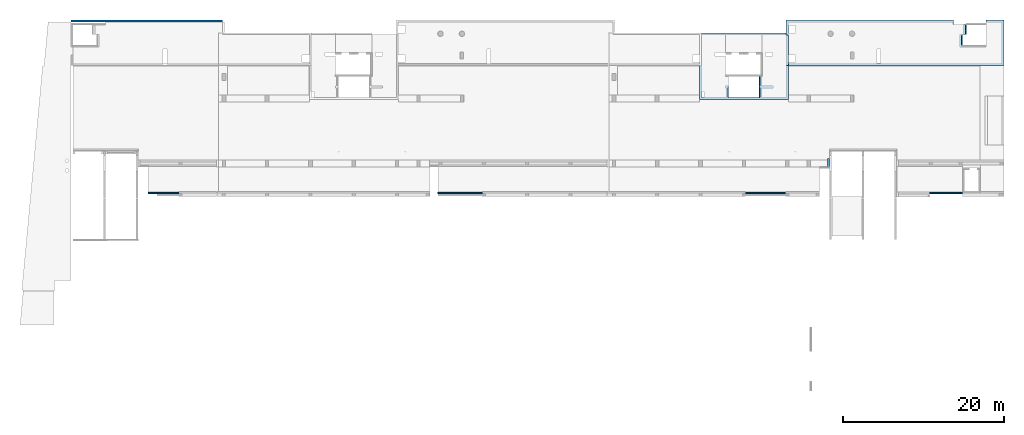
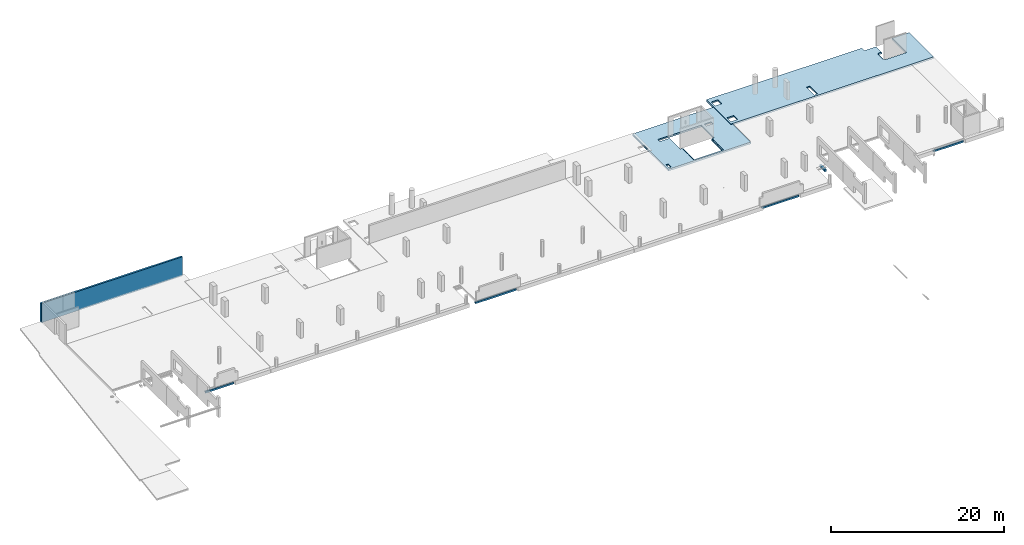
# One storey, part 7 of 8: 6 walls, 2 slabs.
"""IFC2X3 building model written with IfcOpenShell, lengths in millimetres."""

from ifc_helpers import new_model, entity, si_unit, converted_unit, derived_unit, direction, frame, origin, place, context, subcontext, project, spatial, faceted_brep, material, layer, layer_set, type_object, element, save


model = new_model("IFC2X3")

# Units and contexts
model_context = context("Model", 3, precision=0.01, world=origin(), true_north=direction((6.12303176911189e-17, 1.0)))
body_context = subcontext(model_context, "Body", "Model", "MODEL_VIEW")
ifc_project = project(units=[si_unit("LENGTHUNIT", "METRE", prefix="MILLI"), si_unit("AREAUNIT", "SQUARE_METRE"), si_unit("VOLUMEUNIT", "CUBIC_METRE"), converted_unit("PLANEANGLEUNIT", "DEGREE", entity("IfcRatioMeasure", 0.0174532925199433), si_unit("PLANEANGLEUNIT", "RADIAN"), dimensions=[0, 0, 0, 0, 0, 0, 0]), si_unit("MASSUNIT", "GRAM", prefix="KILO"), derived_unit("MASSDENSITYUNIT", [(si_unit("MASSUNIT", "GRAM", prefix="KILO"), 1), (si_unit("LENGTHUNIT", "METRE"), -3)]), si_unit("TIMEUNIT", "SECOND"), si_unit("FREQUENCYUNIT", "HERTZ"), si_unit("THERMODYNAMICTEMPERATUREUNIT", "DEGREE_CELSIUS"), derived_unit("THERMALTRANSMITTANCEUNIT", [(si_unit("MASSUNIT", "GRAM", prefix="KILO"), 1), (si_unit("THERMODYNAMICTEMPERATUREUNIT", "KELVIN"), -1), (si_unit("TIMEUNIT", "SECOND"), -3)]), derived_unit("VOLUMETRICFLOWRATEUNIT", [(si_unit("LENGTHUNIT", "METRE"), 3), (si_unit("TIMEUNIT", "SECOND"), -1)]), si_unit("ELECTRICCURRENTUNIT", "AMPERE"), si_unit("ELECTRICVOLTAGEUNIT", "VOLT"), si_unit("POWERUNIT", "WATT"), si_unit("FORCEUNIT", "NEWTON", prefix="KILO"), si_unit("ILLUMINANCEUNIT", "LUX"), si_unit("LUMINOUSFLUXUNIT", "LUMEN"), si_unit("LUMINOUSINTENSITYUNIT", "CANDELA"), derived_unit("USERDEFINED", [(si_unit("MASSUNIT", "GRAM", prefix="KILO"), -1), (si_unit("LENGTHUNIT", "METRE"), -2), (si_unit("TIMEUNIT", "SECOND"), 3), (si_unit("LUMINOUSFLUXUNIT", "LUMEN"), 1)]), derived_unit("LINEARVELOCITYUNIT", [(si_unit("LENGTHUNIT", "METRE"), 1), (si_unit("TIMEUNIT", "SECOND"), -1)]), si_unit("PRESSUREUNIT", "PASCAL"), derived_unit("USERDEFINED", [(si_unit("LENGTHUNIT", "METRE"), -2), (si_unit("MASSUNIT", "GRAM", prefix="KILO"), 1), (si_unit("TIMEUNIT", "SECOND"), -2)])], contexts=[model_context])

# Site, building, storey
site_placement = place(None, origin())
site = spatial("IfcSite", under=ifc_project, at=site_placement, Name="Default", CompositionType="ELEMENT")
building_placement = place(site_placement, origin())
building = spatial("IfcBuilding", under=site, at=building_placement, Name="niet gebruiken", CompositionType="ELEMENT")
storey_placement = place(building_placement, frame((0.0, 0.0, 3810.0)))
storey = spatial("IfcBuildingStorey", under=building, at=storey_placement, Name="01a eerste tussenverdieping", CompositionType="ELEMENT", Elevation=3810.0)

# Slabs
slab_1_placement = place(storey_placement, origin())
element("IfcSlab", 1, at=slab_1_placement, inside=storey, Name="Floor:NLRS_23.21_FL_breedplaat d=70/250_schil apart - gevlinderd_gen", ObjectType="Floor:NLRS_23.21_FL_breedplaat d=70/250_schil apart - gevlinderd_gen", PredefinedType="FLOOR", context=body_context, shape_type="Brep", body=[
    faceted_brep([(105495.0, 42776.0, -250.0), (105495.0, 41886.0, -250.0), (105055.0, 41886.0, -250.0), (105055.0, 42776.0, -250.0), (124200.0, 41061.0, -250.0), (123950.0, 41061.0, -250.0), (97325.0, 41061.0, -250.0), (97075.0, 41061.0, -250.0), (97075.0, 44906.0, -250.0), (97075.0, 46746.0, -250.0), (97325.0, 46746.0, -250.0), (98295.0, 46746.0, -250.0), (106905.0, 46746.0, -250.0), (107875.0, 46746.0, -250.0), (108125.0, 46746.0, -250.0), (109095.0, 46746.0, -250.0), (117705.0, 46746.0, -250.0), (117880.0, 46746.0, -250.0), (117880.0, 46496.0, -250.0), (117880.0, 46176.0, -250.0), (119545.0, 46176.0, -250.0), (119545.0, 44926.0, -250.0), (119175.0, 44926.0, -250.0), (119175.0, 46156.0, -250.0), (117860.0, 46156.0, -250.0), (117860.0, 46516.0, -250.0), (97305.0, 46516.0, -250.0), (97305.0, 46056.0, -250.0), (97325.0, 46056.0, -250.0), (97325.0, 45156.0, -250.0), (97305.0, 45156.0, -250.0), (97305.0, 42386.0, -250.0), (97325.0, 42386.0, -250.0), (97325.0, 41486.0, -250.0), (97305.0, 41486.0, -250.0), (97305.0, 41291.0, -250.0), (108375.0, 41291.0, -250.0), (108375.0, 41311.0, -250.0), (108825.0, 41311.0, -250.0), (108825.0, 41291.0, -250.0), (123970.0, 41291.0, -250.0), (123970.0, 46516.0, -250.0), (121950.0, 46516.0, -250.0), (121950.0, 43376.0, -250.0), (118710.0, 43376.0, -250.0), (118710.0, 44926.0, -250.0), (119005.0, 44926.0, -250.0), (119005.0, 43396.0, -250.0), (121930.0, 43396.0, -250.0), (121930.0, 46496.0, -250.0), (121930.0, 46746.0, -250.0), (124200.0, 46746.0, -250.0), (124200.0, 46496.0, -250.0), (102916.376563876, 44957.1143943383, -250.0), (102887.753127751, 44883.2287886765, -250.0), (102854.958076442, 44798.5750029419, -250.0), (102783.260411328, 44770.799179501, -250.0), (102711.562746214, 44743.0233560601, -250.0), (102639.8650811, 44715.2475326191, -250.0), (102568.167415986, 44687.4717091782, -250.0), (102512.386042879, 44715.2475326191, -250.0), (102456.604669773, 44743.0233560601, -250.0), (102400.823296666, 44770.799179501, -250.0), (102345.04192356, 44798.5750029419, -250.0), (102322.53144267, 44856.6812522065, -250.0), (102300.02096178, 44914.787501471, -250.0), (102283.623436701, 44957.1143928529, -250.0), (102255.0, 45031.0, -250.0), (102283.623436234, 45104.8856059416, -250.0), (102312.246872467, 45178.7712118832, -250.0), (102345.04192356, 45263.424997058, -250.0), (102416.739588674, 45291.200820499, -250.0), (102488.437253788, 45318.9766439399, -250.0), (102560.134918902, 45346.7524673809, -250.0), (102631.832584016, 45374.5282908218, -250.0), (102687.613957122, 45346.7524673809, -250.0), (102743.395330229, 45318.9766439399, -250.0), (102799.176703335, 45291.200820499, -250.0), (102854.958076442, 45263.4249970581, -250.0), (102877.468557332, 45205.3187477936, -250.0), (102899.979038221, 45147.212498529, -250.0), (102916.376563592, 45104.8856063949, -250.0), (102945.0, 45031.0, -250.0), (105591.376563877, 44957.1143943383, -250.0), (105562.753127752, 44883.2287886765, -250.0), (105529.958076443, 44798.5750029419, -250.0), (105458.260411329, 44770.799179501, -250.0), (105386.562746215, 44743.0233560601, -250.0), (105314.865081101, 44715.2475326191, -250.0), (105243.167415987, 44687.4717091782, -250.0), (105187.38604288, 44715.2475326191, -250.0), (105131.604669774, 44743.0233560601, -250.0), (105075.823296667, 44770.799179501, -250.0), (105020.041923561, 44798.5750029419, -250.0), (104997.531442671, 44856.6812522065, -250.0), (104975.020961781, 44914.787501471, -250.0), (104958.623436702, 44957.1143928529, -250.0), (104930.0, 45031.0, -250.0), (104958.623436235, 45104.8856059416, -250.0), (104987.246872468, 45178.7712118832, -250.0), (105020.041923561, 45263.4249970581, -250.0), (105091.739588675, 45291.200820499, -250.0), (105163.437253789, 45318.9766439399, -250.0), (105235.134918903, 45346.7524673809, -250.0), (105306.832584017, 45374.5282908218, -250.0), (105362.613957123, 45346.7524673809, -250.0), (105418.39533023, 45318.9766439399, -250.0), (105474.176703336, 45291.200820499, -250.0), (105529.958076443, 45263.424997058, -250.0), (105552.468557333, 45205.3187477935, -250.0), (105574.979038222, 45147.212498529, -250.0), (105591.376563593, 45104.8856063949, -250.0), (105620.0, 45031.0, -250.0), (97075.0, 41061.0, 0.0), (97325.0, 41061.0, 0.0), (97325.0, 41486.0, 0.0), (97325.0, 42386.0, 0.0), (97075.0, 44906.0, 0.0), (98225.0, 41486.0, 0.0), (108375.0, 41311.0, 0.0), (108825.0, 41311.0, 0.0), (120225.0, 41061.0, 0.0), (119005.0, 43396.0, 0.0), (121930.0, 43396.0, 0.0), (121250.0, 41061.0, 0.0), (123950.0, 41061.0, 0.0), (124200.0, 41061.0, 0.0), (124200.0, 46746.0, 0.0), (123950.0, 46746.0, 0.0), (121930.0, 46496.0, 0.0), (121930.0, 46746.0, 0.0), (118895.0, 43576.0, 0.0), (119005.0, 43576.0, 0.0), (108825.0, 43111.0, 0.0), (117880.0, 46176.0, 0.0), (118895.0, 44846.0, 0.0), (119005.0, 44926.0, 0.0), (119005.0, 44846.0, 0.0), (119435.0, 46176.0, 0.0), (119435.0, 44926.0, 0.0), (117880.0, 46496.0, 0.0), (117880.0, 46746.0, 0.0), (108375.0, 43111.0, 0.0), (97325.0, 46746.0, 0.0), (98225.0, 46056.0, 0.0), (97325.0, 46056.0, 0.0), (97075.0, 46746.0, 0.0), (97075.0, 45156.0, 0.0), (97325.0, 45156.0, 0.0), (98225.0, 45156.0, 0.0), (98225.0, 42386.0, 0.0), (97075.0, 46746.0, -210.0), (117880.0, 46746.0, -210.0), (124200.0, 46746.0, -210.0), (121930.0, 46746.0, -210.0), (97075.0, 41061.0, -90.0), (119545.0, 46176.0, -130.0), (119545.0, 44926.0, -130.0), (119435.0, 44926.0, -130.0), (119005.0, 44926.0, -180.0), (119175.0, 44926.0, -180.0), (119005.0, 44846.0, -130.0), (119005.0, 43576.0, -130.0), (98225.0, 46056.0, -180.0), (97325.0, 46056.0, -180.0), (97325.0, 45156.0, -180.0), (97325.0, 42386.0, -180.0), (97325.0, 41486.0, -180.0), (98225.0, 45156.0, -180.0), (98225.0, 41486.0, -180.0), (98225.0, 42386.0, -180.0), (119435.0, 46176.0, -130.0), (118895.0, 44846.0, -130.0), (118895.0, 43576.0, -130.0), (108375.0, 43111.0, -180.0), (108825.0, 43111.0, -180.0), (108825.0, 41311.0, -180.0), (108375.0, 41311.0, -180.0), (118710.0, 43376.0, -180.0), (108825.0, 41291.0, -180.0), (117860.0, 46156.0, -180.0), (117860.0, 46516.0, -180.0), (105529.958076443, 45263.424997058, -180.0), (105552.468557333, 45205.3187477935, -180.0), (105574.979038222, 45147.212498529, -180.0), (105597.489519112, 45089.1062492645, -180.0), (105620.0, 45031.0, -180.0), (105597.489519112, 44972.8937507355, -180.0), (105574.979038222, 44914.787501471, -180.0), (105552.468557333, 44856.6812522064, -180.0), (105529.958076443, 44798.5750029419, -180.0), (105495.0, 42776.0, -180.0), (105495.0, 41886.0, -180.0), (108375.0, 41291.0, -180.0), (105055.0, 41886.0, -180.0), (97305.0, 41291.0, -180.0), (97305.0, 41486.0, -180.0), (102631.832584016, 44687.4717091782, -180.0), (102560.134918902, 44715.2475326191, -180.0), (102488.437253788, 44743.0233560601, -180.0), (102416.739588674, 44770.799179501, -180.0), (102345.04192356, 44798.5750029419, -180.0), (97305.0, 45156.0, -180.0), (97305.0, 42386.0, -180.0), (102322.53144267, 44856.6812522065, -180.0), (102300.02096178, 44914.787501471, -180.0), (102277.510480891, 44972.8937507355, -180.0), (102255.0, 45031.0, -180.0), (102277.510480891, 45089.1062492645, -180.0), (102300.02096178, 45147.212498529, -180.0), (102322.53144267, 45205.3187477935, -180.0), (102345.04192356, 45263.424997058, -180.0), (102400.823296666, 45291.200820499, -180.0), (102456.604669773, 45318.9766439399, -180.0), (102512.386042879, 45346.7524673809, -180.0), (102568.167415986, 45374.5282908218, -180.0), (97305.0, 46516.0, -180.0), (97305.0, 46056.0, -180.0), (105243.167415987, 45374.5282908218, -180.0), (102639.8650811, 45346.7524673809, -180.0), (105055.0, 42776.0, -180.0), (102687.613957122, 44715.2475326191, -180.0), (102743.395330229, 44743.0233560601, -180.0), (102799.176703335, 44770.799179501, -180.0), (102854.958076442, 44798.5750029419, -180.0), (105020.041923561, 44798.5750029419, -180.0), (104997.531442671, 44856.6812522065, -180.0), (104975.020961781, 44914.787501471, -180.0), (104952.510480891, 44972.8937507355, -180.0), (104930.0, 45031.0, -180.0), (102877.468557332, 44856.6812522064, -180.0), (102899.979038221, 44914.787501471, -180.0), (102922.489519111, 44972.8937507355, -180.0), (102945.0, 45031.0, -180.0), (104952.510480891, 45089.1062492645, -180.0), (104975.020961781, 45147.212498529, -180.0), (104997.531442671, 45205.3187477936, -180.0), (105020.041923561, 45263.4249970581, -180.0), (102922.489519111, 45089.1062492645, -180.0), (102899.979038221, 45147.212498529, -180.0), (102877.468557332, 45205.3187477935, -180.0), (102854.958076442, 45263.424997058, -180.0), (105187.38604288, 45346.7524673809, -180.0), (102783.260411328, 45291.200820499, -180.0), (105131.604669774, 45318.9766439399, -180.0), (105075.823296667, 45291.200820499, -180.0), (102711.562746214, 45318.9766439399, -180.0), (105091.739588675, 44770.799179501, -180.0), (105163.437253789, 44743.0233560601, -180.0), (105235.134918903, 44715.2475326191, -180.0), (105306.832584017, 44687.4717091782, -180.0), (105362.613957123, 44715.2475326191, -180.0), (105418.39533023, 44743.0233560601, -180.0), (105474.176703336, 44770.799179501, -180.0), (105458.260411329, 45291.200820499, -180.0), (105386.562746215, 45318.9766439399, -180.0), (105314.865081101, 45346.7524673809, -180.0), (118710.0, 44926.0, -180.0), (119175.0, 46156.0, -180.0), (123970.0, 41291.0, -180.0), (121950.0, 43376.0, -180.0), (123970.0, 46516.0, -180.0), (121950.0, 46516.0, -180.0)], [[[0, 1, 2, 3]], [[4, 5, 6, 7, 8, 9, 10, 11, 12, 13, 14, 15, 16, 17, 18, 19, 20, 21, 22, 23, 24, 25, 26, 27, 28, 29, 30, 31, 32, 33, 34, 35, 36, 37, 38, 39, 40, 41, 42, 43, 44, 45, 46, 47, 48, 49, 50, 51, 52]], [[53, 54, 55, 56, 57, 58, 59, 60, 61, 62, 63, 64, 65, 66, 67, 68, 69, 70, 71, 72, 73, 74, 75, 76, 77, 78, 79, 80, 81, 82]], [[83, 84, 85, 86, 87, 88, 89, 90, 91, 92, 93, 94, 95, 96, 97, 98, 99, 100, 101, 102, 103, 104, 105, 106, 107, 108, 109, 110, 111, 112]], [[113, 114, 115]], [[115, 116, 113]], [[113, 116, 117]], [[114, 118, 115]], [[119, 118, 114]], [[120, 119, 114]], [[114, 121, 120]], [[120, 121, 122]], [[121, 123, 122]], [[121, 124, 123]], [[123, 124, 125]], [[125, 126, 123]], [[126, 127, 123]], [[123, 127, 128]], [[129, 123, 128]], [[129, 128, 130]], [[131, 120, 122]], [[122, 132, 131]], [[133, 120, 131]], [[134, 133, 131]], [[135, 134, 131]], [[136, 134, 135]], [[136, 135, 137]], [[134, 136, 138]], [[139, 138, 136]], [[134, 140, 133]], [[140, 141, 133]], [[141, 142, 133]], [[142, 141, 143]], [[143, 144, 142]], [[143, 145, 144]], [[146, 145, 143]], [[145, 146, 147]], [[145, 147, 148]], [[147, 117, 148]], [[149, 148, 117]], [[142, 144, 149]], [[149, 150, 142]], [[117, 150, 149]], [[119, 150, 118]], [[150, 119, 142]], [[116, 150, 117]], [[10, 9, 151, 146, 143, 141, 152, 17, 16, 15, 14, 13, 12, 11]], [[153, 51, 50, 154, 130, 128, 127]], [[52, 51, 153, 127, 126, 4]], [[147, 146, 151, 9, 8, 7, 155, 113, 117]], [[48, 47, 122, 123]], [[49, 48, 123, 129, 130, 154, 50]], [[21, 20, 156, 157]], [[22, 21, 157, 158, 139, 136, 159, 160]], [[46, 159, 136, 137, 161, 162, 132, 122, 47]], [[121, 114, 113, 155, 7, 6, 5, 4, 126, 125, 124]], [[163, 144, 145, 164]], [[164, 145, 148, 165, 29, 28]], [[166, 116, 115, 167, 33, 32]], [[165, 148, 149, 168]], [[168, 149, 144, 163]], [[169, 118, 150, 170]], [[157, 156, 171, 158]], [[161, 172, 173, 162]], [[171, 138, 139, 158]], [[18, 17, 152, 141, 140, 134, 19]], [[156, 20, 19, 134, 138, 171]], [[172, 161, 137, 135]], [[173, 172, 135, 131]], [[173, 131, 132, 162]], [[133, 142, 174, 175]], [[120, 133, 175, 176]], [[177, 119, 120, 176, 38, 37]], [[142, 119, 177, 174]], [[170, 150, 116, 166]], [[167, 115, 118, 169]], [[176, 178, 179]], [[175, 178, 176]], [[178, 175, 180]], [[181, 180, 175]], [[182, 181, 175]], [[175, 174, 182]], [[174, 183, 182]], [[174, 184, 183]], [[174, 185, 184]], [[174, 186, 185]], [[174, 187, 186]], [[174, 188, 187]], [[174, 189, 188]], [[174, 190, 189]], [[190, 174, 191]], [[174, 192, 191]], [[177, 192, 174]], [[192, 177, 193]], [[194, 192, 193]], [[194, 193, 169]], [[193, 195, 169]], [[195, 167, 169]], [[167, 195, 196]], [[197, 194, 169]], [[169, 198, 197]], [[169, 199, 198]], [[169, 200, 199]], [[169, 201, 200]], [[169, 170, 201]], [[168, 201, 170]], [[165, 168, 170]], [[170, 166, 165]], [[165, 166, 202]], [[203, 202, 166]], [[168, 204, 201]], [[168, 205, 204]], [[168, 206, 205]], [[168, 207, 206]], [[163, 207, 168]], [[163, 208, 207]], [[163, 209, 208]], [[163, 210, 209]], [[163, 211, 210]], [[163, 212, 211]], [[163, 213, 212]], [[163, 214, 213]], [[163, 215, 214]], [[216, 215, 163]], [[216, 163, 164]], [[164, 217, 216]], [[216, 181, 218]], [[216, 218, 215]], [[218, 219, 215]], [[220, 194, 197]], [[220, 197, 221]], [[220, 221, 222]], [[220, 222, 223]], [[220, 223, 224]], [[224, 225, 220]], [[224, 226, 225]], [[224, 227, 226]], [[224, 228, 227]], [[224, 229, 228]], [[229, 224, 230]], [[229, 230, 231]], [[229, 231, 232]], [[229, 232, 233]], [[233, 234, 229]], [[233, 235, 234]], [[233, 236, 235]], [[233, 237, 236]], [[237, 233, 238]], [[237, 238, 239]], [[237, 239, 240]], [[237, 240, 241]], [[241, 218, 242]], [[218, 241, 243]], [[241, 242, 244]], [[241, 244, 245]], [[241, 245, 237]], [[218, 243, 246]], [[218, 246, 219]], [[220, 225, 247]], [[220, 247, 248]], [[220, 248, 249]], [[220, 249, 250]], [[191, 250, 251]], [[220, 250, 191]], [[191, 251, 252]], [[191, 252, 253]], [[191, 253, 190]], [[181, 182, 254]], [[181, 254, 255]], [[181, 255, 256]], [[181, 256, 218]], [[257, 178, 180]], [[258, 257, 180]], [[159, 257, 258]], [[258, 160, 159]], [[259, 179, 178]], [[260, 259, 178]], [[260, 261, 259]], [[262, 261, 260]], [[261, 41, 40, 259]], [[259, 40, 39, 179]], [[193, 36, 35, 195]], [[216, 217, 27, 26]], [[195, 35, 34, 196]], [[203, 31, 30, 202]], [[216, 26, 25, 181]], [[262, 42, 41, 261]], [[179, 39, 38, 176]], [[177, 37, 36, 193]], [[196, 34, 33, 167]], [[166, 32, 31, 203]], [[165, 202, 30, 29]], [[217, 164, 28, 27]], [[220, 3, 2, 194]], [[192, 194, 2, 1]], [[192, 1, 0, 191]], [[220, 191, 0, 3]], [[225, 226, 227, 228, 229, 97, 96, 95, 94, 93]], [[90, 249, 248]], [[90, 89, 249]], [[91, 248, 247]], [[89, 250, 249]], [[85, 84, 83, 112, 186, 187, 188, 189, 190]], [[190, 253, 85]], [[247, 225, 92]], [[250, 88, 251]], [[252, 86, 253]], [[251, 88, 87]], [[225, 93, 92]], [[91, 247, 92]], [[250, 89, 88]], [[85, 253, 86]], [[248, 91, 90]], [[87, 252, 251]], [[86, 252, 87]], [[182, 183, 184, 185, 186, 112, 111, 110, 109, 108]], [[242, 103, 102]], [[105, 104, 256]], [[106, 255, 254]], [[254, 182, 107]], [[104, 103, 218]], [[100, 99, 98, 97, 229, 234, 235, 236, 237]], [[237, 245, 100]], [[218, 103, 242]], [[244, 101, 245]], [[255, 105, 256]], [[255, 106, 105]], [[182, 108, 107]], [[106, 254, 107]], [[100, 245, 101]], [[102, 244, 242]], [[104, 218, 256]], [[101, 244, 102]], [[241, 240, 239, 238, 233, 82, 81, 80, 79, 78]], [[214, 73, 72]], [[75, 74, 219]], [[76, 246, 243]], [[243, 241, 77]], [[74, 73, 215]], [[70, 69, 68, 67, 207, 208, 209, 210, 211]], [[211, 212, 70]], [[215, 73, 214]], [[213, 71, 212]], [[246, 75, 219]], [[246, 76, 75]], [[241, 78, 77]], [[76, 243, 77]], [[70, 212, 71]], [[72, 213, 214]], [[74, 215, 219]], [[71, 213, 72]], [[201, 204, 205, 206, 207, 67, 66, 65, 64, 63]], [[60, 198, 199]], [[60, 59, 198]], [[61, 199, 200]], [[59, 197, 198]], [[55, 54, 53, 82, 233, 232, 231, 230, 224]], [[224, 223, 55]], [[200, 201, 62]], [[197, 58, 221]], [[222, 56, 223]], [[221, 58, 57]], [[201, 63, 62]], [[61, 200, 62]], [[197, 59, 58]], [[55, 223, 56]], [[199, 61, 60]], [[57, 222, 221]], [[56, 222, 57]], [[181, 25, 24, 180]], [[180, 24, 23, 258]], [[258, 23, 22, 160]], [[159, 46, 45, 257]], [[257, 45, 44, 178]], [[178, 44, 43, 260]], [[260, 43, 42, 262]]]),
])
slab_2_placement = place(storey_placement, origin())
element("IfcSlab", 2, at=slab_2_placement, inside=storey, Name="Floor:NLRS_23.21_FL_breedplaat d=70/250_schil apart_gen", ObjectType="Floor:NLRS_23.21_FL_breedplaat d=70/250_schil apart_gen", PredefinedType="FLOOR", context=body_context, shape_type="Brep", body=[
    faceted_brep([(86275.0, 36856.0, -340.0), (86275.0, 44906.0, -340.0), (86275.0, 45156.0, -340.0), (94025.0, 45156.0, -340.0), (94025.0, 44926.0, -340.0), (89525.0, 44926.0, -340.0), (86505.0, 44926.0, -340.0), (86505.0, 37826.0, -340.0), (86525.0, 37826.0, -340.0), (86525.0, 37106.0, -340.0), (86825.0, 37106.0, -340.0), (86825.0, 37086.0, -340.0), (89629.9997832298, 37086.0, -340.0), (89629.9997832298, 38306.0, -340.0), (89508.0, 38306.0, -340.0), (89508.0, 38546.0, -340.0), (89899.9997832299, 38546.0, -340.0), (89899.9997832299, 38306.0, -340.0), (89899.9997832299, 37106.0, -340.0), (93699.9997832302, 37106.0, -340.0), (93700.0, 38526.0, -340.0), (93700.0, 39746.0, -340.0), (94075.0, 39746.0, -340.0), (94075.0, 42696.0, -340.0), (94095.0, 42696.0, -340.0), (94095.0, 39726.0, -340.0), (93970.0, 39726.0, -340.0), (93970.0, 38546.0, -340.0), (95395.0, 38546.0, -340.0), (95395.0, 38306.0, -340.0), (93969.9997832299, 38306.0, -340.0), (93969.9997832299, 37086.0, -340.0), (97095.0, 37086.0, -340.0), (97095.0, 44906.0, -340.0), (97325.0, 44906.0, -340.0), (97325.0, 36856.0, -340.0), (97075.0, 36856.0, -340.0), (86525.0, 36856.0, -340.0), (94075.0, 42696.0, -90.0), (94075.0, 39746.0, -90.0), (93810.0, 39746.0, -90.0), (93810.0, 38526.0, -90.0), (93699.9997832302, 38526.0, -90.0), (93699.9997832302, 38326.0, -90.0), (93810.0, 38326.0, -90.0), (93810.0, 37106.0, -90.0), (89789.9997832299, 37106.0, -90.0), (89789.9997832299, 38326.0, -90.0), (89899.9997832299, 38326.0, -90.0), (89899.9997832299, 38526.0, -90.0), (89789.9997832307, 38526.0, -90.0), (89789.9997832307, 39746.0, -90.0), (89525.0, 39746.0, -90.0), (89525.0, 42256.0, -90.0), (88227.4998491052, 42256.0, -90.0), (88227.4998491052, 42696.0, -90.0), (86825.0, 37826.0, -90.0), (86825.0, 37106.0, -90.0), (86525.0, 37106.0, -90.0), (86525.0, 37826.0, -90.0), (86275.0, 45156.0, -90.0), (86275.0, 42386.0, -90.0), (86275.0, 41486.0, -90.0), (86275.0, 41061.0, -90.0), (86275.0, 36856.0, -90.0), (86925.0181333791, 36856.0, -90.0), (88055.0181333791, 36856.0, -90.0), (95545.0, 36856.0, -90.0), (96675.0, 36856.0, -90.0), (97075.0, 36856.0, -90.0), (97325.0, 36856.0, -90.0), (97325.0, 41061.0, -90.0), (97075.0, 41061.0, -90.0), (97075.0, 44906.0, -90.0), (97075.0, 45156.0, -90.0), (86525.0, 45156.0, -90.0), (94480.0, 42701.0, -90.0), (95380.0, 42701.0, -90.0), (95380.0, 42251.0, -90.0), (94480.0, 42251.0, -90.0), (86275.0, 41291.0, -250.0), (86275.0, 41486.0, -250.0), (86275.0, 42386.0, -250.0), (86275.0, 44906.0, -250.0), (86275.0, 44926.0, -250.0), (86275.0, 44926.0, -180.0), (86275.0, 42386.0, -180.0), (86275.0, 41486.0, -180.0), (86275.0, 41291.0, -180.0), (86275.0, 45156.0, -250.0), (97075.0, 45156.0, -210.0), (94025.0, 45156.0, -210.0), (97325.0, 44906.0, -250.0), (97325.0, 42386.0, -250.0), (97325.0, 41486.0, -250.0), (97325.0, 41061.0, -250.0), (88227.4998491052, 42696.0, -270.0), (89525.0, 42696.0, -270.0), (89525.0, 42696.0, -340.0), (94075.0, 42696.0, -270.0), (89525.0, 39746.0, -340.0), (89525.0, 42256.0, -340.0), (89899.9997832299, 39746.0, -340.0), (89789.9997832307, 39746.0, -130.0), (89899.9997832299, 39746.0, -130.0), (89899.9997832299, 38526.0, -130.0), (89899.9997832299, 38326.0, -130.0), (89899.9997832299, 38306.0, -130.0), (89899.9997832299, 38546.0, -270.0), (89899.9997832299, 39726.0, -270.0), (89899.9997832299, 39726.0, -340.0), (89899.9997832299, 37106.0, -130.0), (89789.9997832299, 37106.0, -130.0), (93810.0, 37106.0, -130.0), (93699.9997832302, 37106.0, -130.0), (93699.9997832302, 38526.0, -340.0), (93699.9997832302, 38326.0, -130.0), (93700.0, 38526.0, -130.0), (93700.0, 39746.0, -130.0), (93810.0, 39746.0, -130.0), (93810.0, 38526.0, -130.0), (93699.9997832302, 38526.0, -130.0), (93700.0, 38526.0, -90.0), (88227.4998491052, 42256.0, -270.0), (89505.0, 42256.0, -340.0), (89505.0, 42256.0, -270.0), (86825.0, 37826.0, -270.0), (86825.0, 37106.0, -270.0), (86525.0, 37826.0, -270.0), (89789.9997832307, 38526.0, -130.0), (93700.0, 37106.0, -130.0), (93810.0, 38326.0, -130.0), (93700.0, 38326.0, -130.0), (89789.9997832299, 38326.0, -130.0), (86505.0, 37826.0, -270.0), (86505.0, 44926.0, -270.0), (89525.0, 44926.0, -270.0), (94025.0, 44926.0, -270.0), (94025.0, 44906.0, -270.0), (94075.0, 44906.0, -270.0), (97095.0, 44906.0, -270.0), (97095.0, 37086.0, -270.0), (93969.9997832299, 37086.0, -270.0), (93969.9997832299, 38306.0, -270.0), (95395.0, 38306.0, -270.0), (95395.0, 38546.0, -270.0), (93970.0, 38546.0, -270.0), (93970.0, 39726.0, -270.0), (94095.0, 39726.0, -270.0), (94095.0, 42696.0, -270.0), (94075.0, 42716.0, -270.0), (89525.0, 42716.0, -270.0), (89505.0, 39726.0, -270.0), (89508.0, 38546.0, -270.0), (89508.0, 38306.0, -270.0), (89629.9997832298, 38306.0, -270.0), (89629.9997832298, 37086.0, -270.0), (86825.0, 37086.0, -270.0), (95380.0, 42701.0, -270.0), (94480.0, 42701.0, -270.0), (94480.0, 42251.0, -270.0), (95380.0, 42251.0, -270.0), (89505.0, 39726.0, -340.0), (94075.0, 42716.0, -340.0), (89525.0, 42716.0, -340.0), (86295.0, 41291.0, -250.0), (86295.0, 44926.0, -250.0), (86295.0, 44926.0, -180.0), (86295.0, 41291.0, -180.0), (97075.0, 41061.0, -250.0), (97075.0, 44906.0, -250.0), (97075.0, 44906.0, -210.0), (94025.0, 44906.0, -210.0)], [[[0, 1, 2, 3, 4, 5, 6, 7, 8, 9, 10, 11, 12, 13, 14, 15, 16, 17, 18, 19, 20, 21, 22, 23, 24, 25, 26, 27, 28, 29, 30, 31, 32, 33, 34, 35, 36, 37]], [[38, 39, 40, 41, 42, 43, 44, 45, 46, 47, 48, 49, 50, 51, 52, 53, 54, 55], [56, 57, 58, 59], [60, 61, 62, 63, 64, 65, 66, 67, 68, 69, 70, 71, 72, 73, 74, 75], [76, 77, 78, 79]], [[80, 81, 82, 83, 84, 85, 86, 87, 88], [2, 1, 0, 64, 63, 62, 61, 60, 89]], [[2, 89, 60, 75, 74, 90, 91, 3]], [[70, 35, 34, 92, 93, 94, 95, 71]], [[0, 37, 36, 35, 70, 69, 68, 67, 66, 65, 64]], [[38, 55, 96, 97, 98, 23, 99]], [[52, 100, 101, 53]], [[102, 100, 52, 51, 103, 104]], [[23, 22, 39, 38, 99]], [[102, 104, 105, 49, 48, 106, 107, 17, 16, 108, 109, 110]], [[19, 18, 111, 112, 46, 45, 113, 114]], [[115, 19, 114, 116, 43, 42, 117]], [[22, 21, 118, 119, 40, 39]], [[18, 17, 107, 111]], [[21, 20, 117, 118]], [[117, 120, 119, 118]], [[119, 120, 41, 40]], [[120, 121, 122, 41]], [[55, 54, 123, 96]], [[54, 53, 101, 124, 125, 123]], [[57, 56, 126, 127]], [[9, 58, 57, 127, 10]], [[58, 9, 8, 128, 59]], [[56, 59, 128, 126]], [[129, 105, 104, 103]], [[129, 103, 51, 50]], [[105, 129, 50, 49]], [[130, 113, 131, 116]], [[132, 131, 44, 43]], [[131, 113, 45, 44]], [[112, 111, 107, 106, 133]], [[112, 133, 47, 46]], [[133, 106, 48, 47]], [[134, 135, 136, 137, 138, 139, 140, 141, 142, 143, 144, 145, 146, 147, 148, 149, 99, 150, 151, 97, 96, 123, 125, 152, 109, 108, 153, 154, 155, 156, 157, 127, 126, 128], [158, 159, 160, 161]], [[152, 125, 124, 162]], [[148, 147, 26, 25]], [[99, 23, 163, 150]], [[156, 155, 13, 12]], [[143, 142, 31, 30]], [[109, 152, 162, 110]], [[146, 145, 28, 27]], [[147, 146, 27, 26]], [[157, 156, 12, 11]], [[157, 11, 10, 127]], [[7, 134, 128, 8]], [[135, 134, 7, 6]], [[135, 6, 5, 4, 137, 136]], [[98, 97, 151, 164]], [[32, 141, 140, 33]], [[142, 141, 32, 31]], [[149, 148, 25, 24]], [[99, 149, 24, 23]], [[153, 108, 16, 15]], [[154, 153, 15, 14]], [[155, 154, 14, 13]], [[144, 143, 30, 29]], [[145, 144, 29, 28]], [[151, 150, 163, 164]], [[165, 166, 84, 83, 82, 81, 80]], [[167, 168, 88, 87, 86, 85]], [[166, 167, 85, 84]], [[166, 165, 168, 167]], [[165, 80, 88, 168]], [[169, 95, 94, 93, 92, 170]], [[72, 169, 170, 171, 90, 74, 73]], [[95, 169, 72, 71]], [[172, 91, 90, 171]], [[172, 171, 170, 92, 34, 33, 140, 139, 138]], [[91, 172, 138, 137, 4, 3]], [[77, 76, 159, 158]], [[78, 77, 158, 161]], [[79, 78, 161, 160]], [[76, 79, 160, 159]], [[100, 102, 110, 162, 124, 101]], [[163, 23, 98, 164]]], outer=[[True], [False, False, True, False], [False, True], [True], [True], [True], [True], [True], [True], [True], [True], [True], [True], [True], [True], [True], [True], [True], [True], [True], [True], [True], [True], [True], [True], [True], [True], [True], [True], [True], [True], [True], [True], [True], [True, False], [True], [True], [True], [True], [True], [True], [True], [True], [True], [True], [True], [True], [True], [True], [True], [True], [True], [True], [True], [True], [True], [True], [True], [True], [True], [True], [True], [True], [True], [True], [True], [True], [True], [True], [True], [True], [True], [True], [True], [True], [True]]),
])

# Walls
ifc_material_1 = material(Name="NLRS_f2_beton ihwg")
ifc_layer = layer(ifc_material_1, 250.0)
ifc_layer_set = layer_set([ifc_layer], Name="Basic Wall:NLRS_22.21_WA_beton ihwg d=250_gen")
wall_type_1 = type_object("IfcWallType", Name="Basic Wall:NLRS_22.21_WA_beton ihwg d=250_gen", PredefinedType="STANDARD", material=ifc_layer_set)
wall_1_placement = place(storey_placement, frame((26850.0, 46621.0, -210.0), z_axis=(0.0, 0.0, 1.0), x_axis=(-1.0, 0.0, 0.0)))
element("IfcWall", 3, at=wall_1_placement, inside=storey, type_object=wall_type_1, Name="Basic Wall:NLRS_22.21_WA_beton ihwg d=250_gen", ObjectType="Basic Wall:NLRS_22.21_WA_beton ihwg d=250_gen", context=body_context, shape_type="Brep", body=[
    faceted_brep([(0.0, -125.0, 0.0), (4155.0, -125.0, 0.0), (5125.0, -125.0, 0.0), (5375.0, -125.0, 0.0), (6345.0, -125.0, 0.0), (14955.0, -125.0, 0.0), (15925.0, -125.0, 0.0), (16175.0, -125.0, 0.0), (17145.0, -125.0, 0.0), (18875.0, -125.0, 0.0), (18875.0, -125.0, 2720.0), (17145.0, -125.0, 2720.0), (16175.0, -125.0, 2720.0), (15925.0, -125.0, 2720.0), (14955.0, -125.0, 2720.0), (6345.0, -125.0, 2720.0), (5375.0, -125.0, 2720.0), (5125.0, -125.0, 2720.0), (4155.0, -125.0, 2720.0), (0.0, -125.0, 2720.0), (18875.0, 125.0, 2720.0), (18875.0, 125.0, 0.0), (14555.0000950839, 125.0, 0.0), (14555.0000950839, 125.0, 30.0), (0.0, 125.0, 30.0), (0.0, 125.0, 2720.0), (0.0, 105.0, 0.0), (14555.0000950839, 105.0, 0.0), (0.0, 105.0, 30.0), (14555.0000950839, 105.0, 30.0)], [[[0, 1, 2, 3, 4, 5, 6, 7, 8, 9, 10, 11, 12, 13, 14, 15, 16, 17, 18, 19]], [[20, 21, 22, 23, 24, 25]], [[9, 8, 7, 6, 5, 4, 3, 2, 1, 0, 26, 27, 22, 21]], [[10, 9, 21, 20]], [[19, 18, 17, 16, 15, 14, 13, 12, 11, 10, 20, 25]], [[0, 19, 25, 24, 28, 26]], [[23, 29, 28, 24]], [[29, 23, 22, 27]], [[28, 29, 27, 26]]]),
])
ifc_material_2 = material(Name="NLRS_f2_beton prefab")
wall_type_2 = type_object("IfcWallType", Name="NLRS_21.21_SF_WPB_oplegnok prefabbeton_gen:250x310", PredefinedType="NOTDEFINED", material=ifc_material_2)
wall_2_placement = place(storey_placement, frame((102225.0, 28263.5, -850.0), z_axis=(0.0, 0.0, 1.0), x_axis=(0.0, 1.0, 0.0)))
element("IfcWall", 4, at=wall_2_placement, inside=storey, type_object=wall_type_2, material=ifc_material_2, Name="NLRS_21.21_SF_WPB_oplegnok prefabbeton_gen:250x310", ObjectType="NLRS_21.21_SF_WPB_oplegnok prefabbeton_gen:250x310", context=body_context, shape_type="Brep", body=[
    faceted_brep([(0.0, -250.0, 310.0), (0.0, 0.0, 310.0), (0.0, 0.0, 39.9987607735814), (0.0, -250.0, 0.0), (1235.0, -250.0, 310.0), (1235.0, -250.0, 0.0), (1235.0, 0.0, 39.9987607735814), (1235.0, 0.0, 310.0)], [[[0, 1, 2, 3]], [[4, 5, 6, 7]], [[3, 5, 4, 0]], [[1, 7, 6, 2]], [[0, 4, 7, 1]], [[2, 6, 5, 3]]]),
])
wall_type_3 = type_object("IfcWallType", Name="NLRS_21.21_SF_WPB_oplegnok prefabbeton_gen:200x250 afschuining", PredefinedType="NOTDEFINED", material=ifc_material_2)
wall_3_placement = place(storey_placement, frame((17595.0, 25101.0, -580.0)))
element("IfcWall", 5, at=wall_3_placement, inside=storey, type_object=wall_type_3, material=ifc_material_2, Name="NLRS_21.21_SF_WPB_oplegnok prefabbeton_gen:200x250 afschuining", ObjectType="NLRS_21.21_SF_WPB_oplegnok prefabbeton_gen:200x250 afschuining", context=body_context, shape_type="Brep", body=[
    faceted_brep([(0.0, 0.0, 250.0), (0.0, 200.0, 250.0), (0.0, 200.0, 49.976844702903), (0.0, 0.0, 0.0), (3785.0, 0.0, 250.0), (3785.0, 0.0, 30.0), (3785.0, 0.0, 0.0), (3785.0, 200.0, 49.976844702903), (3785.0, 200.0, 250.0)], [[[0, 1, 2, 3]], [[4, 5, 6, 7, 8]], [[3, 6, 5, 4, 0]], [[1, 8, 7, 2]], [[0, 4, 8, 1]], [[2, 7, 6, 3]]]),
])
wall_4_placement = place(storey_placement, frame((53690.0, 25101.0, -580.0)))
element("IfcWall", 6, at=wall_4_placement, inside=storey, type_object=wall_type_3, material=ifc_material_2, Name="NLRS_21.21_SF_WPB_oplegnok prefabbeton_gen:200x250 afschuining", ObjectType="NLRS_21.21_SF_WPB_oplegnok prefabbeton_gen:200x250 afschuining", context=body_context, shape_type="Brep", body=[
    faceted_brep([(0.0, 0.0, 250.0), (0.0, 200.0, 250.0), (0.0, 200.0, 49.976844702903), (0.0, 0.0, 0.0), (5490.0, 0.0, 250.0), (5490.0, 0.0, 30.0), (5490.0, 0.0, 0.0), (5490.0, 200.0, 49.976844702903), (5490.0, 200.0, 250.0)], [[[0, 1, 2, 3]], [[4, 5, 6, 7, 8]], [[3, 6, 5, 4, 0]], [[1, 8, 7, 2]], [[0, 4, 8, 1]], [[2, 7, 6, 3]]]),
])
wall_5_placement = place(storey_placement, frame((92020.0, 25101.0, -580.0)))
element("IfcWall", 7, at=wall_5_placement, inside=storey, type_object=wall_type_3, material=ifc_material_2, Name="NLRS_21.21_SF_WPB_oplegnok prefabbeton_gen:200x250 afschuining", ObjectType="NLRS_21.21_SF_WPB_oplegnok prefabbeton_gen:200x250 afschuining", context=body_context, shape_type="Brep", body=[
    faceted_brep([(0.0, 0.0, 250.0), (0.0, 200.0, 250.0), (0.0, 200.0, 49.976844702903), (0.0, 0.0, 0.0), (0.0, 0.0, 30.0), (4960.0, 0.0, 250.0), (4960.0, 0.0, 30.0), (4960.0, 0.0, 0.0), (4960.0, 200.0, 49.976844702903), (4960.0, 200.0, 250.0)], [[[0, 1, 2, 3, 4]], [[5, 6, 7, 8, 9]], [[3, 7, 6, 5, 0, 4]], [[1, 9, 8, 2]], [[0, 5, 9, 1]], [[2, 8, 7, 3]]]),
])
wall_6_placement = place(storey_placement, frame((114950.000813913, 25101.0, -580.0)))
element("IfcWall", 8, at=wall_6_placement, inside=storey, type_object=wall_type_3, material=ifc_material_2, Name="NLRS_21.21_SF_WPB_oplegnok prefabbeton_gen:200x250 afschuining", ObjectType="NLRS_21.21_SF_WPB_oplegnok prefabbeton_gen:200x250 afschuining", context=body_context, shape_type="Brep", body=[
    faceted_brep([(0.0, 0.0, 250.0), (0.0, 200.0, 250.0), (0.0, 200.0, 49.9768447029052), (0.0, 0.0, 0.0), (0.0, 0.0, 30.0), (4049.999186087, 0.0, 250.0), (4049.999186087, 0.0, 30.0), (4049.999186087, 0.0, 0.0), (4049.999186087, 200.0, 49.976844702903), (4049.999186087, 200.0, 250.0)], [[[0, 1, 2, 3, 4]], [[5, 6, 7, 8, 9]], [[3, 7, 6, 5, 0, 4]], [[1, 9, 8, 2]], [[2, 8, 7, 3]], [[0, 5, 9, 1]]]),
])

save(model, "model.ifc")
